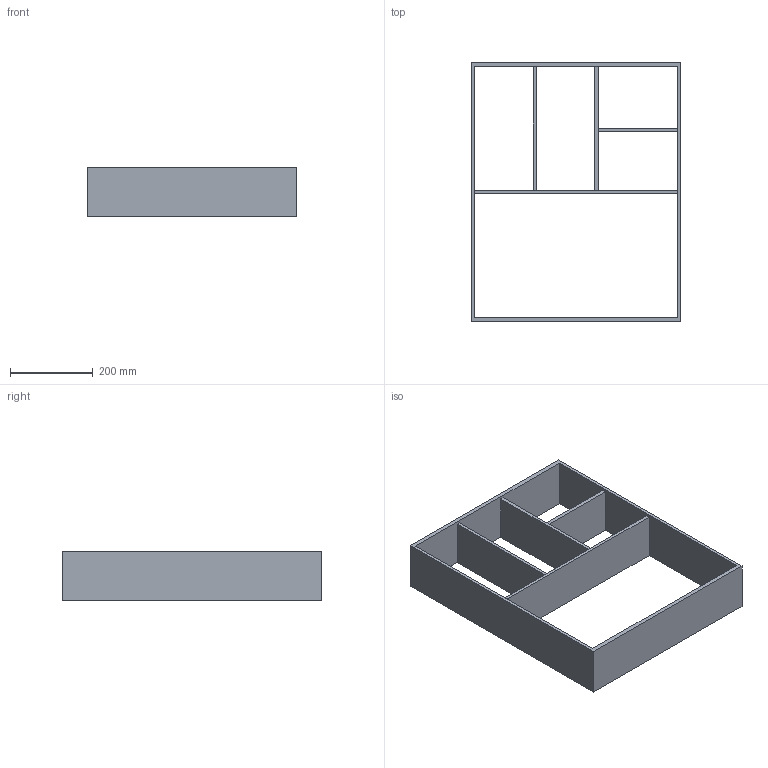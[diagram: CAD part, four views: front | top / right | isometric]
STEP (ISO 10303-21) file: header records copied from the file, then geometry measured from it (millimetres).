
FILE_DESCRIPTION (( 'STEP AP214' ), '1' );
FILE_NAME ('Vario Multi H120 NL650_B600_16 mm_Alu-Alu.step', '2010-10-08T09:48:23', ( 'grass' ), ( '' ), 'SwSTEP 2.0', 'SolidWorks 2010', '' );
FILE_SCHEMA (( 'AUTOMOTIVE_DESIGN' ));
Length unit declared in the file: millimetre
Products named in the file (1): Vario Multi H120 NL650_B600_16 mm_Alu-Alu
Bounding box: 508 x 629 x 120 mm (x, y, z)
Volume: 3676941.2 mm3; surface area: 884255 mm2
Topology: 1 solids, 1 shells, 29 faces, 80 edges, 52 vertices
Faces by surface type: plane 29
Entity records: 956 total; most frequent: CARTESIAN_POINT 162, ORIENTED_EDGE 160, DIRECTION 140, VECTOR 80, LINE 80, EDGE_CURVE 80, VERTEX_POINT 52, EDGE_LOOP 38
